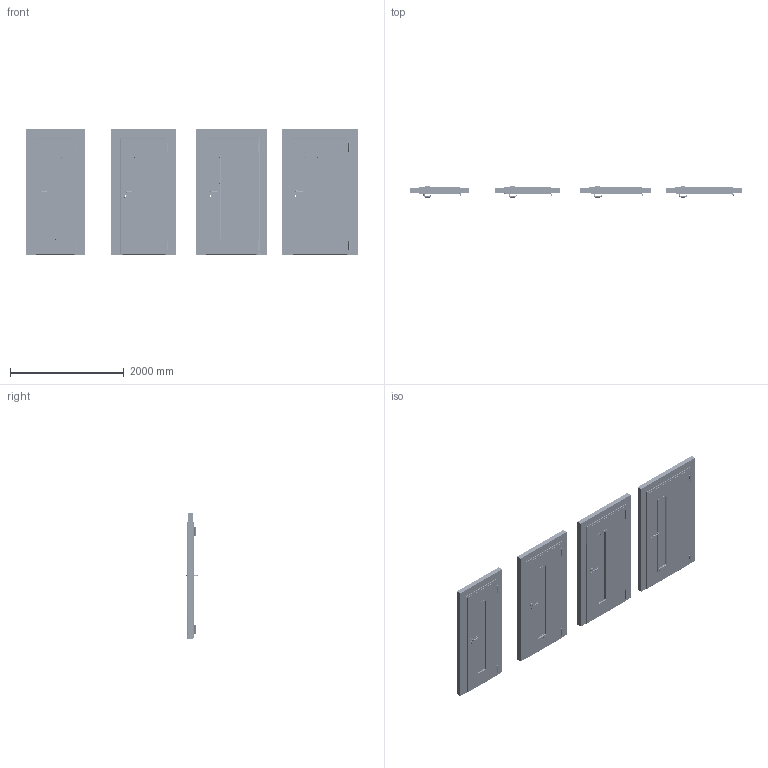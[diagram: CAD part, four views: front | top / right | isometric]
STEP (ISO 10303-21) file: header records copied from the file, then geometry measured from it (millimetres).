
FILE_DESCRIPTION(/* description */ (''),/* implementation_level */ '2;1');
FILE_NAME(/* name */ '050185_A_2-Drzwi techniczne stalowe EI30 PLUS model 3 na ościeżnicy stalowej..stp',/* time_stamp */ '2024-10-07T12:20:12+02:00',/* author */ (''),/* organization */ (''),/* preprocessor_version */ 'ST-DEVELOPER v16',/* originating_system */ 'SIEMENS PLM Software NX 11.0',/* authorisation */ '');
FILE_SCHEMA (('AUTOMOTIVE_DESIGN { 1 0 10303 214 3 1 1 1 }'));
Products named in the file (1): bkni1DE81E09zbca
Bounding box: 5845 x 196 x 2216 mm (x, y, z)
Volume: 973729587.3 mm3; surface area: 121686325.1 mm2
Topology: 595 solids, 595 shells, 16270 faces, 43893 edges, 28813 vertices
Faces by surface type: plane 9599, cylinder 4307, bspline 776, cone 768, extrusion 552, torus 264, sphere 4
Full cylindrical faces by diameter (mm): 1.9 x32, 3 x528, 3.1 x128, 3.6 x4, 3.9 x128, 4.2 x232, 5 x148, 5.795 x24, 6 x56, 7.4 x32, 7.5 x128, 8.1 x4, 10 x16, 11 x64, 11.3 x24, 12 x32, 14 x24, 16.8 x264, 17 x4, 17.2 x32, 19 x32, 19.2 x64, 19.3 x16, 24 x28, 25 x60, 54 x16
Entity records: 508959 total; most frequent: CARTESIAN_POINT 106151, ORIENTED_EDGE 79722, DIRECTION 77621, EDGE_CURVE 39861, VECTOR 28071, VERTEX_POINT 28017, LINE 27519, AXIS2_PLACEMENT_3D 24775
